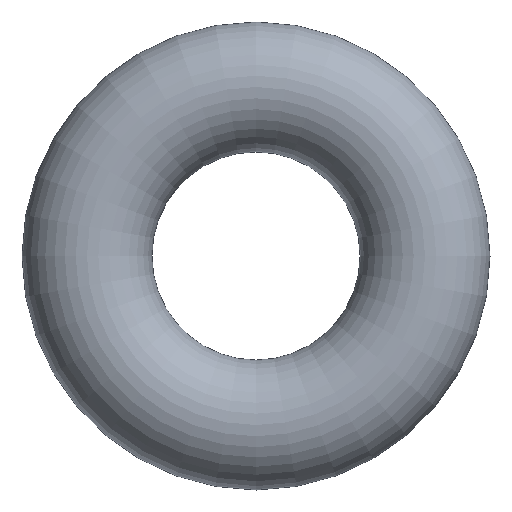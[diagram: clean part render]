
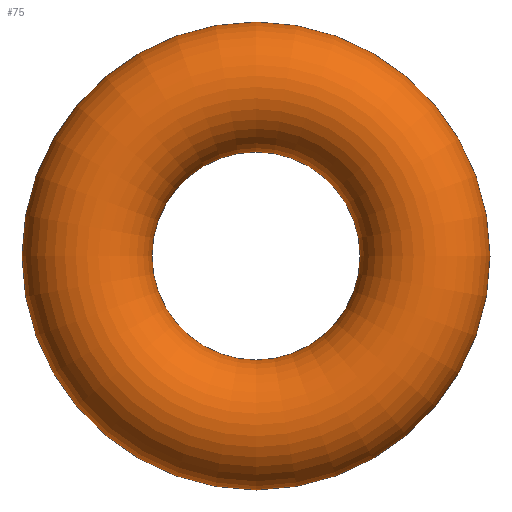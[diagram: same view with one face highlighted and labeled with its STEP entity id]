
A CAD part, front view. The second image highlights one B-rep face of the part: STEP entity #75.
In plain terms, the highlighted toroidal (fillet/blend) face has major radius 3.25 mm and minor radius 1.25 mm.
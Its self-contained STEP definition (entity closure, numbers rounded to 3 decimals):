
#75 = ADVANCED_FACE( '', ( #77 ), #78, .T. );
#77 = FACE_BOUND( '', #79, .T. );
#78 = TOROIDAL_SURFACE( '', #80, 3.25, 1.25 );
#79 = VERTEX_LOOP( '', #81 );
#80 = AXIS2_PLACEMENT_3D( '', #82, #83, #84 );
#81 = VERTEX_POINT( '', #85 );
#82 = CARTESIAN_POINT( '', ( 0., 0., 0. ) );
#83 = DIRECTION( '', ( 0., -1., 0. ) );
#84 = DIRECTION( '', ( 0., 0., -1. ) );
#85 = CARTESIAN_POINT( '', ( 0., 0., -4.5 ) );
